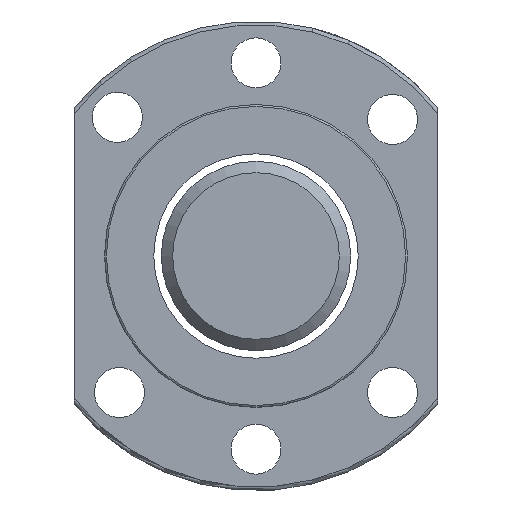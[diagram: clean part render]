
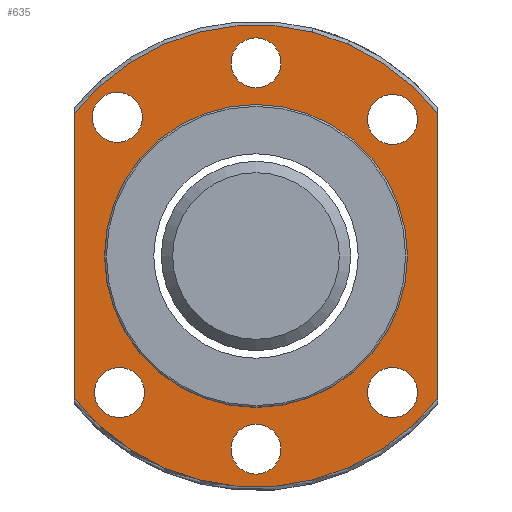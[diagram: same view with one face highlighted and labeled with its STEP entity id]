
A CAD part, left-side view. The second image highlights one B-rep face of the part: STEP entity #635.
In plain terms, the highlighted planar face has unit normal (-1, 0, 0).
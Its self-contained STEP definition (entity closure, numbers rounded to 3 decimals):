
#63=PLANE('',#736);
#110=CIRCLE('',#715,3.3);
#112=CIRCLE('',#718,3.3);
#114=CIRCLE('',#721,3.3);
#116=CIRCLE('',#724,3.3);
#118=CIRCLE('',#727,3.3);
#120=CIRCLE('',#730,3.3);
#123=CIRCLE('',#734,20.);
#124=CIRCLE('',#737,30.5);
#125=CIRCLE('',#738,30.5);
#202=ORIENTED_EDGE('',*,*,#330,.T.);
#203=ORIENTED_EDGE('',*,*,#305,.T.);
#204=ORIENTED_EDGE('',*,*,#331,.T.);
#205=ORIENTED_EDGE('',*,*,#314,.F.);
#206=ORIENTED_EDGE('',*,*,#316,.T.);
#207=ORIENTED_EDGE('',*,*,#318,.T.);
#208=ORIENTED_EDGE('',*,*,#320,.T.);
#209=ORIENTED_EDGE('',*,*,#322,.T.);
#210=ORIENTED_EDGE('',*,*,#324,.T.);
#211=ORIENTED_EDGE('',*,*,#326,.T.);
#212=ORIENTED_EDGE('',*,*,#329,.F.);
#305=EDGE_CURVE('',#377,#376,#411,.T.);
#314=EDGE_CURVE('',#383,#384,#415,.T.);
#316=EDGE_CURVE('',#385,#385,#110,.T.);
#318=EDGE_CURVE('',#387,#387,#112,.T.);
#320=EDGE_CURVE('',#389,#389,#114,.T.);
#322=EDGE_CURVE('',#391,#391,#116,.T.);
#324=EDGE_CURVE('',#393,#393,#118,.T.);
#326=EDGE_CURVE('',#395,#395,#120,.T.);
#329=EDGE_CURVE('',#398,#398,#123,.T.);
#330=EDGE_CURVE('',#383,#377,#124,.T.);
#331=EDGE_CURVE('',#376,#384,#125,.T.);
#376=VERTEX_POINT('',#1050);
#377=VERTEX_POINT('',#1052);
#383=VERTEX_POINT('',#1087);
#384=VERTEX_POINT('',#1089);
#385=VERTEX_POINT('',#1097);
#387=VERTEX_POINT('',#1102);
#389=VERTEX_POINT('',#1107);
#391=VERTEX_POINT('',#1112);
#393=VERTEX_POINT('',#1117);
#395=VERTEX_POINT('',#1122);
#398=VERTEX_POINT('',#1129);
#411=LINE('',#1051,#419);
#415=LINE('',#1088,#423);
#419=VECTOR('',#838,1000.);
#423=VECTOR('',#844,1000.);
#468=EDGE_LOOP('',(#202,#203,#204,#205));
#469=EDGE_LOOP('',(#206));
#470=EDGE_LOOP('',(#207));
#471=EDGE_LOOP('',(#208));
#472=EDGE_LOOP('',(#209));
#473=EDGE_LOOP('',(#210));
#474=EDGE_LOOP('',(#211));
#475=EDGE_LOOP('',(#212));
#553=FACE_BOUND('',#468,.T.);
#554=FACE_BOUND('',#469,.T.);
#555=FACE_BOUND('',#470,.T.);
#556=FACE_BOUND('',#471,.T.);
#557=FACE_BOUND('',#472,.T.);
#558=FACE_BOUND('',#473,.T.);
#559=FACE_BOUND('',#474,.T.);
#560=FACE_BOUND('',#475,.T.);
#635=ADVANCED_FACE('',(#553,#554,#555,#556,#557,#558,#559,#560),#63,.F.);
#715=AXIS2_PLACEMENT_3D('',#1096,#847,#848);
#718=AXIS2_PLACEMENT_3D('',#1101,#853,#854);
#721=AXIS2_PLACEMENT_3D('',#1106,#859,#860);
#724=AXIS2_PLACEMENT_3D('',#1111,#865,#866);
#727=AXIS2_PLACEMENT_3D('',#1116,#871,#872);
#730=AXIS2_PLACEMENT_3D('',#1121,#877,#878);
#734=AXIS2_PLACEMENT_3D('',#1128,#885,#886);
#736=AXIS2_PLACEMENT_3D('',#1131,#889,#890);
#737=AXIS2_PLACEMENT_3D('',#1132,#891,#892);
#738=AXIS2_PLACEMENT_3D('',#1133,#893,#894);
#838=DIRECTION('',(0.,0.,-1.));
#844=DIRECTION('',(0.,0.,-1.));
#847=DIRECTION('',(1.,0.,0.));
#848=DIRECTION('',(0.,1.,0.));
#853=DIRECTION('',(1.,0.,0.));
#854=DIRECTION('',(0.,1.,0.));
#859=DIRECTION('',(1.,0.,0.));
#860=DIRECTION('',(0.,1.,0.));
#865=DIRECTION('',(1.,0.,0.));
#866=DIRECTION('',(0.,1.,0.));
#871=DIRECTION('',(1.,0.,0.));
#872=DIRECTION('',(0.,1.,0.));
#877=DIRECTION('',(1.,0.,0.));
#878=DIRECTION('',(0.,1.,0.));
#885=DIRECTION('',(-1.,0.,0.));
#886=DIRECTION('',(0.,-1.,0.));
#889=DIRECTION('',(1.,0.,0.));
#890=DIRECTION('',(0.,1.,0.));
#891=DIRECTION('',(-1.,0.,0.));
#892=DIRECTION('',(0.,-1.,0.));
#893=DIRECTION('',(-1.,0.,0.));
#894=DIRECTION('',(0.,-1.,0.));
#1050=CARTESIAN_POINT('',(-27.,24.,-18.822));
#1051=CARTESIAN_POINT('',(-27.,24.,0.));
#1052=CARTESIAN_POINT('',(-27.,24.,18.822));
#1087=CARTESIAN_POINT('',(-27.,-24.,18.822));
#1088=CARTESIAN_POINT('',(-27.,-24.,0.));
#1089=CARTESIAN_POINT('',(-27.,-24.,-18.822));
#1096=CARTESIAN_POINT('',(-27.,0.,-25.5));
#1097=CARTESIAN_POINT('',(-27.,3.3,-25.5));
#1101=CARTESIAN_POINT('',(-27.,0.,25.5));
#1102=CARTESIAN_POINT('',(-27.,3.3,25.5));
#1106=CARTESIAN_POINT('',(-27.,18.031,-18.031));
#1107=CARTESIAN_POINT('',(-27.,21.331,-18.031));
#1111=CARTESIAN_POINT('',(-27.,-18.031,-18.031));
#1112=CARTESIAN_POINT('',(-27.,-14.731,-18.031));
#1116=CARTESIAN_POINT('',(-27.,-18.031,18.031));
#1117=CARTESIAN_POINT('',(-27.,-14.731,18.031));
#1121=CARTESIAN_POINT('',(-27.,18.312,18.312));
#1122=CARTESIAN_POINT('',(-27.,21.612,18.312));
#1128=CARTESIAN_POINT('',(-27.,0.,0.));
#1129=CARTESIAN_POINT('',(-27.,-20.,0.));
#1131=CARTESIAN_POINT('',(-27.,25.25,0.));
#1132=CARTESIAN_POINT('',(-27.,0.,0.));
#1133=CARTESIAN_POINT('',(-27.,0.,0.));
